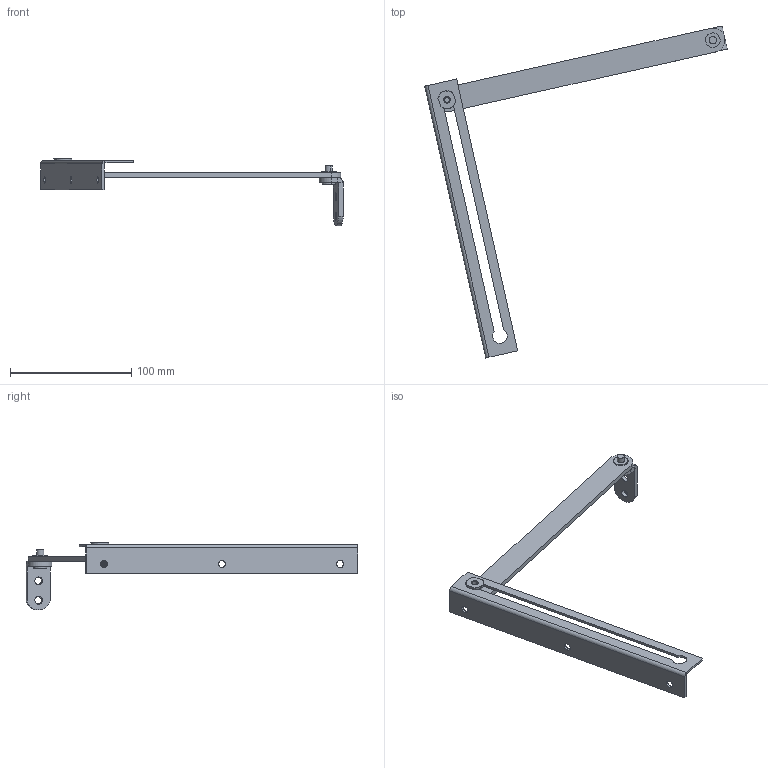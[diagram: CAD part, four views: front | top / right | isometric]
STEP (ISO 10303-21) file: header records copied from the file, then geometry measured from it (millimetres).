
FILE_DESCRIPTION (( 'STEP AP214' ), '1' );
FILE_NAME ('4.401.001.STEP', '2010-03-05T11:09:48', ( 'Techniczny' ), ( 'RST Roztocze' ), 'SwSTEP 2.0', 'SolidWorks 2010', '' );
FILE_SCHEMA (( 'AUTOMOTIVE_DESIGN' ));
Length unit declared in the file: millimetre
Products named in the file (9): Podk³adka sprê¿ysta 6,5; 4.401.001; 4.BL.drzwi.04.01.00_5.ZPUE.01.03-010.SLDPRT; 4.Blok-Drzwi 01.01.00; 4.Blok.drzwi 02.01.01_Default; 4.BD.03.01.00_Default; 4.BD.05.01.00_Default; Œruba M6; Podk³adka_Default
Assembly tree (9 placements, depth 2):
  4.401.001
    Podk³adka_Default  x2
    Podk³adka sprê¿ysta 6,5
    4.BD.03.01.00_Default
    4.BD.05.01.00_Default
    Œruba M6
    4.Blok-Drzwi 01.01.00
    4.Blok.drzwi 02.01.01_Default
    4.BL.drzwi.04.01.00_5.ZPUE.01.03-010.SLDPRT
Bounding box: 249.74 x 274.12 x 56 mm (x, y, z)
Volume: 43133.4 mm3; surface area: 37296.2 mm2
Topology: 9 solids, 9 shells, 133 faces, 302 edges, 192 vertices
Faces by surface type: cylinder 60, plane 53, cone 16, bspline 2, torus 2
Entity records: 4304 total; most frequent: CARTESIAN_POINT 929, DIRECTION 660, ORIENTED_EDGE 580, EDGE_CURVE 290, AXIS2_PLACEMENT_3D 259, VERTEX_POINT 184, EDGE_LOOP 154, LINE 142
